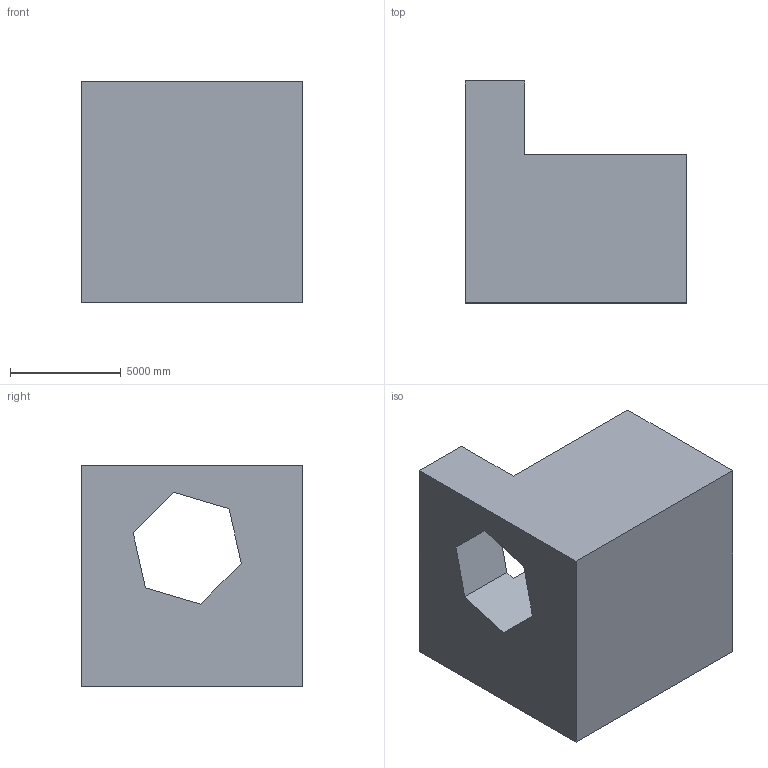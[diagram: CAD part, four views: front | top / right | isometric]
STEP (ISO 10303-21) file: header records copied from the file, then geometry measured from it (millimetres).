
FILE_DESCRIPTION (( 'STEP AP203' ), '1' );
FILE_NAME ('19.STEP', '2022-08-31T14:15:46', ( 'user' ), ( '' ), 'SwSTEP 2.0', 'SolidWorks 2021', '' );
FILE_SCHEMA (( 'CONFIG_CONTROL_DESIGN' ));
Length unit declared in the file: centimetre
Products named in the file (1): 19
Bounding box: 10000 x 10000 x 10000 mm (x, y, z)
Volume: 601732380852.8 mm3; surface area: 614120749.5 mm2
Topology: 1 solids, 1 shells, 15 faces, 42 edges, 28 vertices
Faces by surface type: plane 15
Entity records: 557 total; most frequent: CARTESIAN_POINT 86, ORIENTED_EDGE 84, DIRECTION 74, VECTOR 42, EDGE_CURVE 42, LINE 42, VERTEX_POINT 28, AXIS2_PLACEMENT_3D 16
